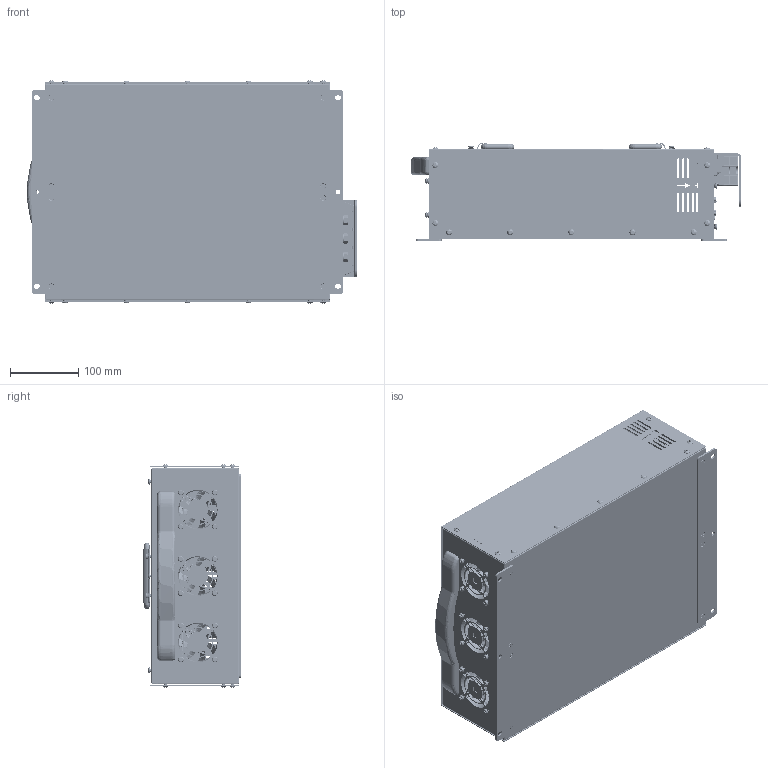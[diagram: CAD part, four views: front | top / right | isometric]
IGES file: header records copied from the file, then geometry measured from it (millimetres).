
Global section: file name: VX4COM ASS'Y_2026.04.21_Simplify_2; native system: Autodesk Inventor 2026; preprocessor: unknown; author: Jang Eun Sol ; date: 20260604.113120; units: millimetre
Bounding box: 483.57 x 144.9 x 327.84 mm (x, y, z)
Volume: 1029183.2 mm3; surface area: 1247237.4 mm2
Topology: 9 solids, 9 shells, 7799 faces, 21449 edges, 14301 vertices
Faces by surface type: bspline 7799
